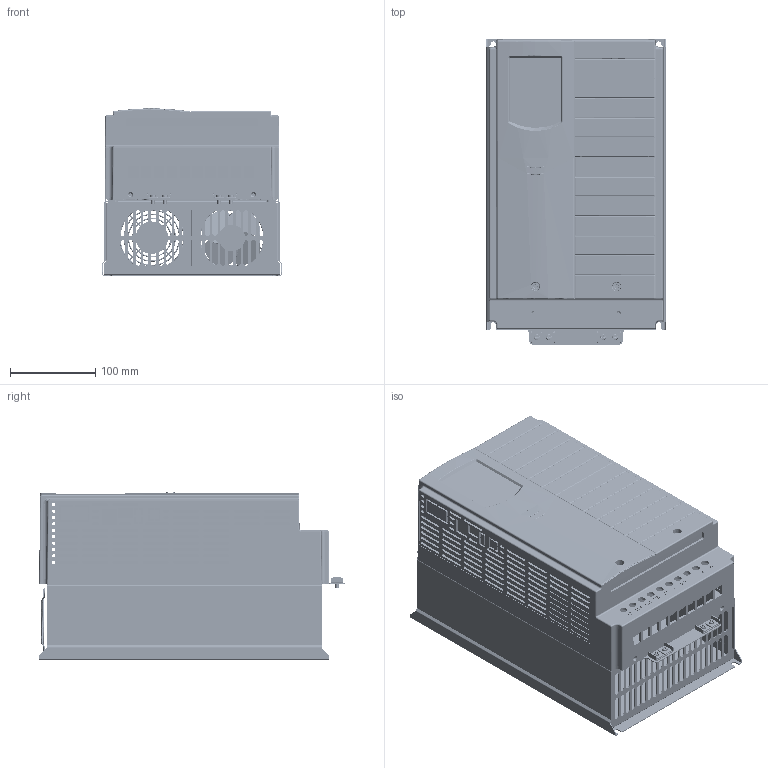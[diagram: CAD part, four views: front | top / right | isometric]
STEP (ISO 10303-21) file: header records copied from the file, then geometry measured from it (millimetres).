
FILE_DESCRIPTION((''),'2;1');
FILE_NAME('E6','2024-05-28T',('Lenovo'),(''),'CREO PARAMETRIC BY PTC INC, 2016130','CREO PARAMETRIC BY PTC INC, 2016130','');
FILE_SCHEMA(('AUTOMOTIVE_DESIGN { 1 0 10303 214 1 1 1 1 }'));
Products named in the file (1): E6
Bounding box: 210 x 358 x 196.5 mm (x, y, z)
Volume: 5247877.1 mm3; surface area: 1135539.5 mm2
Topology: 1 solids, 5188 shells, 5193 faces, 30432 edges, 30355 vertices
Faces by surface type: plane 2929, cylinder 1150, extrusion 565, torus 236, bspline 170, sphere 72, cone 71
Entity records: 335345 total; most frequent: CARTESIAN_POINT 122221, DIRECTION 35449, ORIENTED_EDGE 30371, EDGE_CURVE 30359, VERTEX_POINT 30355, VECTOR 19591, LINE 19026, B_SPLINE_CURVE_WITH_KNOTS 8428
